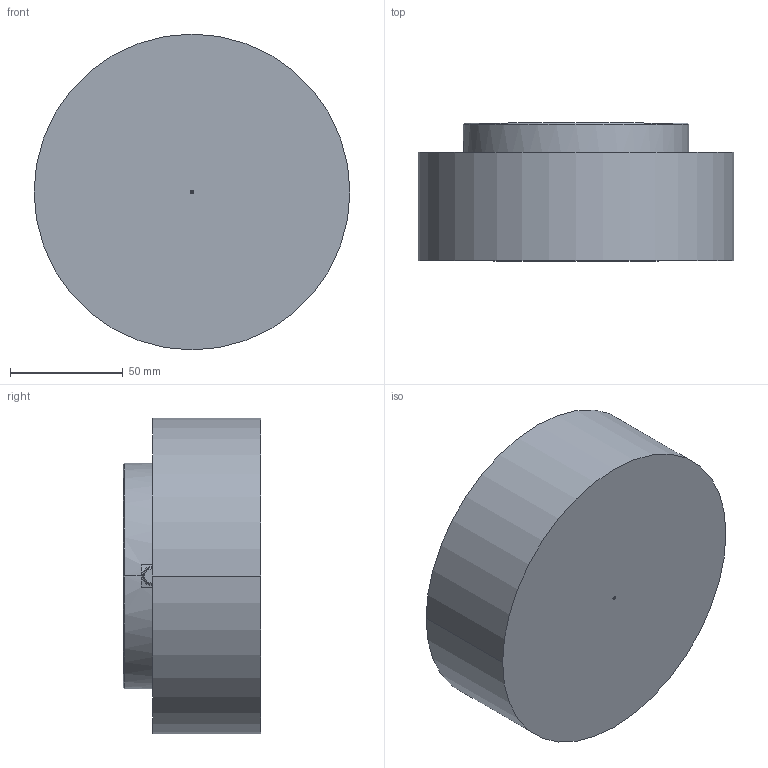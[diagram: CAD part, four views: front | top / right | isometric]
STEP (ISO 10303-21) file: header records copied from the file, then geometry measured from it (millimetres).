
FILE_DESCRIPTION((''),'2;1');
FILE_NAME('S34G101.stp','2020-09-17T15:16:02',(''),(''),'AutoCAD STEP 2000i','AutoCAD 2000i',', , ');
FILE_SCHEMA(('CONFIG_CONTROL_DESIGN'));
Length unit declared in the file: millimetre
Products named in the file (4): DRAWING1; MOLD BODY 101G34; NOZZLE S101G34; RING 34-2018
Assembly tree (3 placements, depth 2):
  DRAWING1
    MOLD BODY 101G34
    NOZZLE S101G34
    RING 34-2018
Bounding box: 140 x 61 x 140 mm (x, y, z)
Volume: 824607.7 mm3; surface area: 87290.5 mm2
Topology: 3 solids, 3 shells, 152 faces, 365 edges, 230 vertices
Faces by surface type: cylinder 58, cone 44, plane 27, bspline 13, torus 10
Entity records: 5143 total; most frequent: CARTESIAN_POINT 1340, DIRECTION 869, ORIENTED_EDGE 714, AXIS2_PLACEMENT_3D 377, EDGE_CURVE 357, CIRCLE 234, VERTEX_POINT 228, EDGE_LOOP 181
